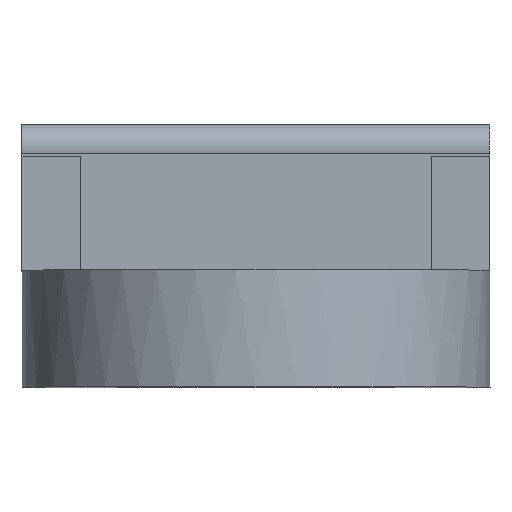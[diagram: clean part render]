
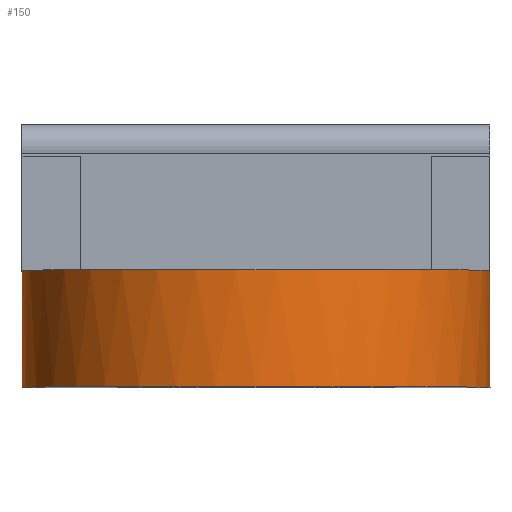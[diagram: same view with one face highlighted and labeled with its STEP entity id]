
A CAD part, top view. The second image highlights one B-rep face of the part: STEP entity #150.
In plain terms, the highlighted cylindrical face has radius 16 mm (diameter 32 mm), a partial arc.
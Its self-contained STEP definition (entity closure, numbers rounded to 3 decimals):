
#30 = ORIENTED_EDGE ( 'NONE', *, *, #1166, .T. ) ;
#40 = FACE_OUTER_BOUND ( 'NONE', #207, .T. ) ;
#93 = CIRCLE ( 'NONE', #776, 16. ) ;
#150 = ADVANCED_FACE ( 'NONE', ( #40 ), #952, .T. ) ;
#173 = EDGE_CURVE ( 'NONE', #801, #424, #982, .T. ) ;
#203 = CARTESIAN_POINT ( 'NONE',  ( 25579.779, 14499.567, 20.75 ) ) ;
#207 = EDGE_LOOP ( 'NONE', ( #455, #695, #918, #224, #631, #30 ) ) ;
#221 = VECTOR ( 'NONE', #771, 1000. ) ;
#224 = ORIENTED_EDGE ( 'NONE', *, *, #612, .T. ) ;
#311 = CIRCLE ( 'NONE', #474, 16. ) ;
#346 = CIRCLE ( 'NONE', #847, 16. ) ;
#350 = AXIS2_PLACEMENT_3D ( 'NONE', #794, #435, #635 ) ;
#396 = CARTESIAN_POINT ( 'NONE',  ( 25579.779, 14491.567, 20.75 ) ) ;
#424 = VERTEX_POINT ( 'NONE', #984 ) ;
#435 = DIRECTION ( 'NONE',  ( 0., -1., 0. ) ) ;
#436 = DIRECTION ( 'NONE',  ( 0., 0., -1. ) ) ;
#455 = ORIENTED_EDGE ( 'NONE', *, *, #1191, .T. ) ;
#474 = AXIS2_PLACEMENT_3D ( 'NONE', #1030, #1024, #964 ) ;
#556 = DIRECTION ( 'NONE',  ( 0., -1., 0. ) ) ;
#595 = CARTESIAN_POINT ( 'NONE',  ( 25563.779, 14499.567, 20.75 ) ) ;
#612 = EDGE_CURVE ( 'NONE', #777, #1413, #1399, .T. ) ;
#623 = VECTOR ( 'NONE', #1348, 1000. ) ;
#625 = DIRECTION ( 'NONE',  ( 0., -1., 0. ) ) ;
#631 = ORIENTED_EDGE ( 'NONE', *, *, #1574, .T. ) ;
#635 = DIRECTION ( 'NONE',  ( 0., 0., -1. ) ) ;
#695 = ORIENTED_EDGE ( 'NONE', *, *, #173, .F. ) ;
#771 = DIRECTION ( 'NONE',  ( 0., 1., 0. ) ) ;
#776 = AXIS2_PLACEMENT_3D ( 'NONE', #595, #556, #436 ) ;
#777 = VERTEX_POINT ( 'NONE', #396 ) ;
#794 = CARTESIAN_POINT ( 'NONE',  ( 25563.779, 14499.567, 20.75 ) ) ;
#801 = VERTEX_POINT ( 'NONE', #1350 ) ;
#847 = AXIS2_PLACEMENT_3D ( 'NONE', #1510, #1505, #1500 ) ;
#918 = ORIENTED_EDGE ( 'NONE', *, *, #1246, .F. ) ;
#951 = VERTEX_POINT ( 'NONE', #1307 ) ;
#952 = CYLINDRICAL_SURFACE ( 'NONE', #1384, 16. ) ;
#964 = DIRECTION ( 'NONE',  ( 0., 0., -1. ) ) ;
#982 = LINE ( 'NONE', #1022, #623 ) ;
#984 = CARTESIAN_POINT ( 'NONE',  ( 25547.779, 14499.567, 20.75 ) ) ;
#1022 = CARTESIAN_POINT ( 'NONE',  ( 25547.779, 14508.266, 20.75 ) ) ;
#1024 = DIRECTION ( 'NONE',  ( 0., -1., 0. ) ) ;
#1030 = CARTESIAN_POINT ( 'NONE',  ( 25563.779, 14491.567, 20.75 ) ) ;
#1166 = EDGE_CURVE ( 'NONE', #1536, #951, #93, .T. ) ;
#1191 = EDGE_CURVE ( 'NONE', #951, #424, #346, .T. ) ;
#1246 = EDGE_CURVE ( 'NONE', #777, #801, #311, .T. ) ;
#1307 = CARTESIAN_POINT ( 'NONE',  ( 25548.32, 14499.567, 24.874 ) ) ;
#1348 = DIRECTION ( 'NONE',  ( 0., 1., 0. ) ) ;
#1350 = CARTESIAN_POINT ( 'NONE',  ( 25547.779, 14491.567, 20.75 ) ) ;
#1355 = DIRECTION ( 'NONE',  ( 0., 0., -1. ) ) ;
#1363 = CARTESIAN_POINT ( 'NONE',  ( 25579.238, 14499.567, 24.874 ) ) ;
#1384 = AXIS2_PLACEMENT_3D ( 'NONE', #1447, #625, #1355 ) ;
#1399 = LINE ( 'NONE', #1400, #221 ) ;
#1400 = CARTESIAN_POINT ( 'NONE',  ( 25579.779, 14499.567, 20.75 ) ) ;
#1413 = VERTEX_POINT ( 'NONE', #203 ) ;
#1419 = CIRCLE ( 'NONE', #350, 16. ) ;
#1447 = CARTESIAN_POINT ( 'NONE',  ( 25563.779, 14499.567, 20.75 ) ) ;
#1500 = DIRECTION ( 'NONE',  ( 0., 0., -1. ) ) ;
#1505 = DIRECTION ( 'NONE',  ( 0., -1., 0. ) ) ;
#1510 = CARTESIAN_POINT ( 'NONE',  ( 25563.779, 14499.567, 20.75 ) ) ;
#1536 = VERTEX_POINT ( 'NONE', #1363 ) ;
#1574 = EDGE_CURVE ( 'NONE', #1413, #1536, #1419, .T. ) ;
